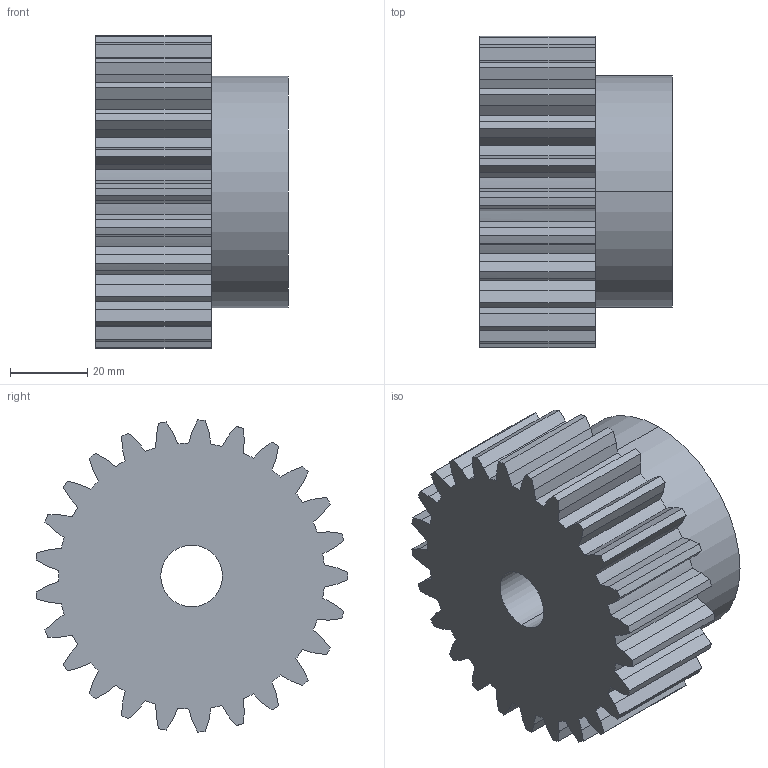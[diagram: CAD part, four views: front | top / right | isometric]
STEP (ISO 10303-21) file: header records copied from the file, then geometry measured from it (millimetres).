
FILE_DESCRIPTION (( 'STEP AP203' ), '1' );
FILE_NAME ('PM 30025.STEP', '2013-09-25T13:47:30', ( '' ), ( '' ), 'SwSTEP 2.0', 'SolidWorks 2010', '' );
FILE_SCHEMA (( 'CONFIG_CONTROL_DESIGN' ));
Length unit declared in the file: millimetre
Products named in the file (1): PM 30025
Bounding box: 50 x 80.79 x 80.94 mm (x, y, z)
Volume: 177288.7 mm3; surface area: 27885.3 mm2
Topology: 1 solids, 1 shells, 157 faces, 462 edges, 308 vertices
Faces by surface type: plane 103, cylinder 54
Entity records: 5405 total; most frequent: CARTESIAN_POINT 1306, ORIENTED_EDGE 924, DIRECTION 734, EDGE_CURVE 462, VERTEX_POINT 308, VECTOR 254, LINE 254, AXIS2_PLACEMENT_3D 240
